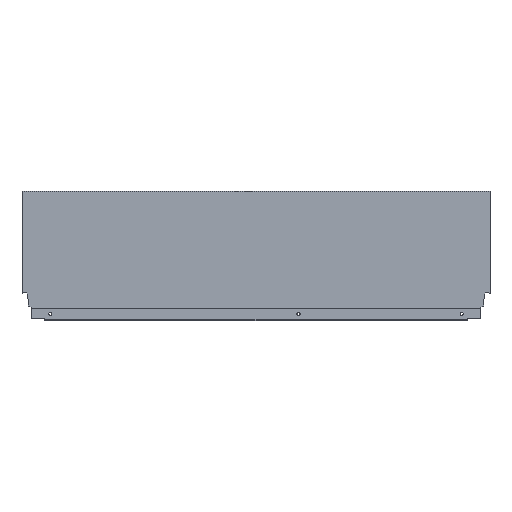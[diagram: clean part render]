
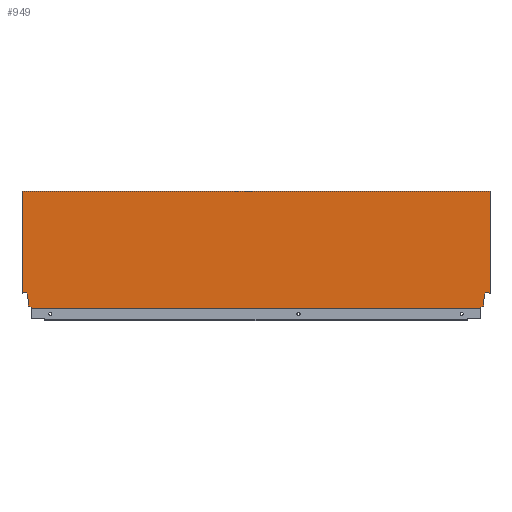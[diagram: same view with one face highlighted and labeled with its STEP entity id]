
A CAD part, top view. The second image highlights one B-rep face of the part: STEP entity #949.
In plain terms, the highlighted planar face has unit normal (0, 0, 1).
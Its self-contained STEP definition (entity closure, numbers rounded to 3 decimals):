
#56 = VERTEX_POINT ( 'NONE', #327 ) ;
#57 = VERTEX_POINT ( 'NONE', #285 ) ;
#59 = VERTEX_POINT ( 'NONE', #329 ) ;
#60 = VERTEX_POINT ( 'NONE', #324 ) ;
#69 = VERTEX_POINT ( 'NONE', #313 ) ;
#285 = CARTESIAN_POINT ( 'NONE',  ( -661., 21.2, 7.5 ) ) ;
#313 = CARTESIAN_POINT ( 'NONE',  ( -652.1, 2.64, 7.5 ) ) ;
#324 = CARTESIAN_POINT ( 'NONE',  ( -13.004, 1.146, 7.5 ) ) ;
#327 = CARTESIAN_POINT ( 'NONE',  ( -653.94, 21.2, 7.5 ) ) ;
#329 = CARTESIAN_POINT ( 'NONE',  ( -647.996, 0., 7.5 ) ) ;
#334 = DIRECTION ( 'NONE',  ( 1., 0., 0. ) ) ;
#335 = DIRECTION ( 'NONE',  ( 0., 0., 1. ) ) ;
#336 = CARTESIAN_POINT ( 'NONE',  ( -661., 0., 7.5 ) ) ;
#340 = PLANE ( 'NONE',  #1110 ) ;
#378 = CARTESIAN_POINT ( 'NONE',  ( 0., 0., 7.5 ) ) ;
#379 = DIRECTION ( 'NONE',  ( 0., -1., 0. ) ) ;
#380 = CARTESIAN_POINT ( 'NONE',  ( -8.9, 10.765, 7.5 ) ) ;
#381 = DIRECTION ( 'NONE',  ( 0., -1., 0. ) ) ;
#411 = DIRECTION ( 'NONE',  ( -0.174, -0.985, 0. ) ) ;
#412 = CARTESIAN_POINT ( 'NONE',  ( -7.06, 21.2, 7.5 ) ) ;
#421 = DIRECTION ( 'NONE',  ( -1., 0., 0. ) ) ;
#434 = FACE_OUTER_BOUND ( 'NONE', #1269, .T. ) ;
#436 = DIRECTION ( 'NONE',  ( 0., 1., 0. ) ) ;
#437 = CARTESIAN_POINT ( 'NONE',  ( -652.1, 10.765, 7.5 ) ) ;
#454 = CARTESIAN_POINT ( 'NONE',  ( -8.9, 2.64, 7.5 ) ) ;
#469 = DIRECTION ( 'NONE',  ( 0., 1., 0. ) ) ;
#470 = CARTESIAN_POINT ( 'NONE',  ( -647.996, 1.146, 7.5 ) ) ;
#472 = DIRECTION ( 'NONE',  ( 1., 0., 0. ) ) ;
#473 = CARTESIAN_POINT ( 'NONE',  ( -661., 0., 7.5 ) ) ;
#474 = DIRECTION ( 'NONE',  ( -1., 0., 0. ) ) ;
#476 = CARTESIAN_POINT ( 'NONE',  ( -666., 21.2, 7.5 ) ) ;
#478 = DIRECTION ( 'NONE',  ( -0.174, 0.985, 0. ) ) ;
#479 = CARTESIAN_POINT ( 'NONE',  ( -653.94, 21.2, 7.5 ) ) ;
#480 = DIRECTION ( 'NONE',  ( 0., -1., 0. ) ) ;
#481 = CARTESIAN_POINT ( 'NONE',  ( -652.1, 2.64, 7.5 ) ) ;
#482 = DIRECTION ( 'NONE',  ( -0.94, 0.342, 0. ) ) ;
#483 = DIRECTION ( 'NONE',  ( 0., -1., 0. ) ) ;
#485 = CARTESIAN_POINT ( 'NONE',  ( -661., 164.7, 7.5 ) ) ;
#487 = DIRECTION ( 'NONE',  ( -0.94, -0.342, 0. ) ) ;
#498 = DIRECTION ( 'NONE',  ( 1., 0., 0. ) ) ;
#499 = CARTESIAN_POINT ( 'NONE',  ( -13.004, 1.146, 7.5 ) ) ;
#500 = CARTESIAN_POINT ( 'NONE',  ( 0., 21.2, 7.5 ) ) ;
#506 = CARTESIAN_POINT ( 'NONE',  ( -661., 0., 7.5 ) ) ;
#568 = VERTEX_POINT ( 'NONE', #911 ) ;
#570 = VERTEX_POINT ( 'NONE', #893 ) ;
#571 = VERTEX_POINT ( 'NONE', #895 ) ;
#577 = VERTEX_POINT ( 'NONE', #857 ) ;
#581 = VERTEX_POINT ( 'NONE', #850 ) ;
#583 = VERTEX_POINT ( 'NONE', #842 ) ;
#587 = VERTEX_POINT ( 'NONE', #852 ) ;
#598 = VERTEX_POINT ( 'NONE', #838 ) ;
#599 = VERTEX_POINT ( 'NONE', #837 ) ;
#783 = LINE ( 'NONE', #499, #806 ) ;
#785 = VECTOR ( 'NONE', #469, 1000. ) ;
#788 = LINE ( 'NONE', #485, #789 ) ;
#789 = VECTOR ( 'NONE', #498, 1000. ) ;
#791 = LINE ( 'NONE', #470, #785 ) ;
#792 = LINE ( 'NONE', #500, #793 ) ;
#793 = VECTOR ( 'NONE', #421, 1000. ) ;
#796 = LINE ( 'NONE', #412, #797 ) ;
#797 = VECTOR ( 'NONE', #411, 1000. ) ;
#798 = LINE ( 'NONE', #378, #799 ) ;
#799 = VECTOR ( 'NONE', #379, 1000. ) ;
#800 = LINE ( 'NONE', #380, #801 ) ;
#801 = VECTOR ( 'NONE', #381, 1000. ) ;
#802 = LINE ( 'NONE', #454, #803 ) ;
#803 = VECTOR ( 'NONE', #487, 1000. ) ;
#804 = LINE ( 'NONE', #506, #805 ) ;
#805 = VECTOR ( 'NONE', #480, 1000. ) ;
#806 = VECTOR ( 'NONE', #483, 1000. ) ;
#808 = LINE ( 'NONE', #481, #809 ) ;
#809 = VECTOR ( 'NONE', #482, 1000. ) ;
#810 = LINE ( 'NONE', #437, #811 ) ;
#811 = VECTOR ( 'NONE', #436, 1000. ) ;
#812 = LINE ( 'NONE', #479, #813 ) ;
#813 = VECTOR ( 'NONE', #478, 1000. ) ;
#816 = LINE ( 'NONE', #476, #817 ) ;
#817 = VECTOR ( 'NONE', #474, 1000. ) ;
#818 = LINE ( 'NONE', #473, #819 ) ;
#819 = VECTOR ( 'NONE', #472, 1000. ) ;
#837 = CARTESIAN_POINT ( 'NONE',  ( 0., 164.7, 7.5 ) ) ;
#838 = CARTESIAN_POINT ( 'NONE',  ( 0., 21.2, 7.5 ) ) ;
#842 = CARTESIAN_POINT ( 'NONE',  ( -652.1, 10.765, 7.5 ) ) ;
#850 = CARTESIAN_POINT ( 'NONE',  ( -7.06, 21.2, 7.5 ) ) ;
#852 = CARTESIAN_POINT ( 'NONE',  ( -13.004, 0., 7.5 ) ) ;
#857 = CARTESIAN_POINT ( 'NONE',  ( -647.996, 1.146, 7.5 ) ) ;
#893 = CARTESIAN_POINT ( 'NONE',  ( -8.9, 2.64, 7.5 ) ) ;
#895 = CARTESIAN_POINT ( 'NONE',  ( -8.9, 10.765, 7.5 ) ) ;
#911 = CARTESIAN_POINT ( 'NONE',  ( -661., 164.7, 7.5 ) ) ;
#949 = ADVANCED_FACE ( 'NONE', ( #434 ), #340, .T. ) ;
#1042 = EDGE_CURVE ( 'NONE', #568, #599, #788, .T. ) ;
#1044 = EDGE_CURVE ( 'NONE', #598, #581, #792, .T. ) ;
#1046 = EDGE_CURVE ( 'NONE', #581, #571, #796, .T. ) ;
#1047 = EDGE_CURVE ( 'NONE', #599, #598, #798, .T. ) ;
#1048 = EDGE_CURVE ( 'NONE', #571, #570, #800, .T. ) ;
#1049 = EDGE_CURVE ( 'NONE', #570, #60, #802, .T. ) ;
#1050 = EDGE_CURVE ( 'NONE', #568, #57, #804, .T. ) ;
#1051 = EDGE_CURVE ( 'NONE', #60, #587, #783, .T. ) ;
#1052 = EDGE_CURVE ( 'NONE', #577, #69, #808, .T. ) ;
#1053 = EDGE_CURVE ( 'NONE', #69, #583, #810, .T. ) ;
#1054 = EDGE_CURVE ( 'NONE', #583, #56, #812, .T. ) ;
#1056 = EDGE_CURVE ( 'NONE', #56, #57, #816, .T. ) ;
#1057 = EDGE_CURVE ( 'NONE', #59, #587, #818, .T. ) ;
#1060 = EDGE_CURVE ( 'NONE', #59, #577, #791, .T. ) ;
#1110 = AXIS2_PLACEMENT_3D ( 'NONE', #336, #335, #334 ) ;
#1269 = EDGE_LOOP ( 'NONE', ( #1435, #1434, #1433, #1432, #1431, #1401, #1402, #1442, #1443, #1444, #1537, #1486, #1359, #1422 ) ) ;
#1359 = ORIENTED_EDGE ( 'NONE', *, *, #1047, .F. ) ;
#1401 = ORIENTED_EDGE ( 'NONE', *, *, #1060, .F. ) ;
#1402 = ORIENTED_EDGE ( 'NONE', *, *, #1057, .T. ) ;
#1422 = ORIENTED_EDGE ( 'NONE', *, *, #1042, .F. ) ;
#1431 = ORIENTED_EDGE ( 'NONE', *, *, #1052, .F. ) ;
#1432 = ORIENTED_EDGE ( 'NONE', *, *, #1053, .F. ) ;
#1433 = ORIENTED_EDGE ( 'NONE', *, *, #1054, .F. ) ;
#1434 = ORIENTED_EDGE ( 'NONE', *, *, #1056, .F. ) ;
#1435 = ORIENTED_EDGE ( 'NONE', *, *, #1050, .T. ) ;
#1442 = ORIENTED_EDGE ( 'NONE', *, *, #1051, .F. ) ;
#1443 = ORIENTED_EDGE ( 'NONE', *, *, #1049, .F. ) ;
#1444 = ORIENTED_EDGE ( 'NONE', *, *, #1048, .F. ) ;
#1486 = ORIENTED_EDGE ( 'NONE', *, *, #1044, .F. ) ;
#1537 = ORIENTED_EDGE ( 'NONE', *, *, #1046, .F. ) ;
